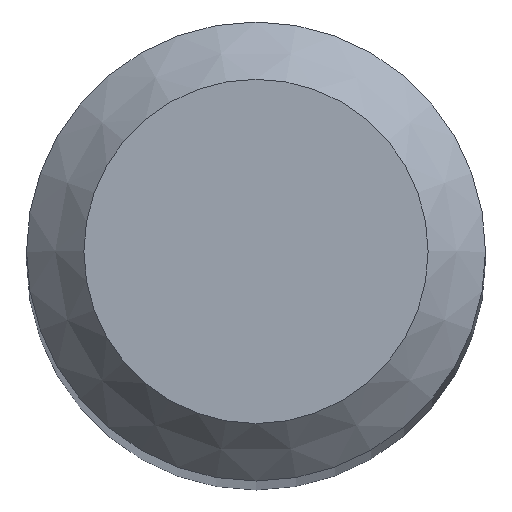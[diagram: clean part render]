
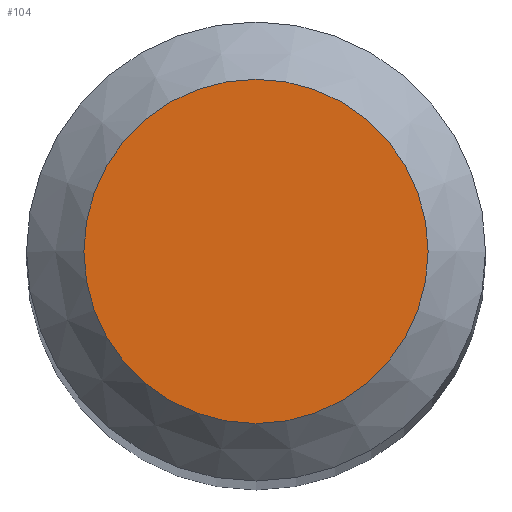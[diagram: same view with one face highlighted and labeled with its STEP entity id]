
A CAD part, top view. The second image highlights one B-rep face of the part: STEP entity #104.
In plain terms, the highlighted planar face has unit normal (0, 0, 1).
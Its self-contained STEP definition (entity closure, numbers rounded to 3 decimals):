
#88=CARTESIAN_POINT('',(1.5,0.0,100.0));
#89=DIRECTION('',(0.0,0.0,1.0));
#90=DIRECTION('',(1.0,0.0,0.0));
#91=AXIS2_PLACEMENT_3D('',#88,#89,#90);
#92=PLANE('',#91);
#93=CARTESIAN_POINT('',(-1.5,0.0,100.0));
#94=VERTEX_POINT('',#93);
#95=CARTESIAN_POINT('',(0.0,0.0,100.0));
#96=DIRECTION('',(0.0,0.0,-1.0));
#97=DIRECTION('',(-1.0,0.0,0.0));
#98=AXIS2_PLACEMENT_3D('',#95,#96,#97);
#99=CIRCLE('',#98,1.5);
#100=EDGE_CURVE('',#94,#94,#99,.T.);
#101=ORIENTED_EDGE('',*,*,#100,.F.);
#102=EDGE_LOOP('',(#101));
#103=FACE_OUTER_BOUND('',#102,.T.);
#104=ADVANCED_FACE('',(#103),#92,.T.);
